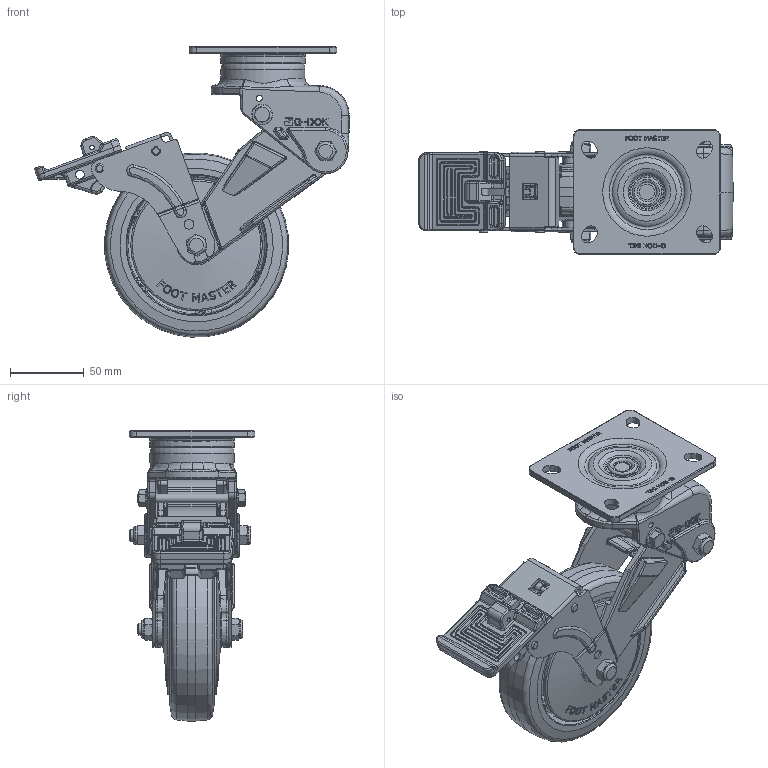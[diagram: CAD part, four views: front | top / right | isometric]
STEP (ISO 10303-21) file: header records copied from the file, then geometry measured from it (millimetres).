
FILE_DESCRIPTION(/* description */ (''),/* implementation_level */ '2;1');
FILE_NAME(/* name */ 'Z:\1.기술연구소\1.도면\제품도면\1.양산품\34.GDSB-SERIES\2.GDSB-125\1.진행도면\3.3D_홈페이지용 내부 간략화\내부 간략화\홈페이지 3D 도면\GDSB-125-BRF-LUD-PEU.stp',/* time_stamp */ '2022-08-20T10:02:51+09:00',/* author */ ('admin'),/* organization */ (''),/* preprocessor_version */ 'ST-DEVELOPER v18.1',/* originating_system */ 'Autodesk Inventor 2021',/* authorisation */ '');
FILE_SCHEMA (('AUTOMOTIVE_DESIGN { 1 0 10303 214 3 1 1 }'));
Products named in the file (1): GDSB-125-BRF-LUD-PEU_Shrinkwrap_1_결합
Bounding box: 213.2 x 85 x 196.81 mm (x, y, z)
Volume: 546541.5 mm3; surface area: 189578.4 mm2
Topology: 1 solids, 6 shells, 3876 faces, 9650 edges, 5823 vertices
Faces by surface type: plane 1262, bspline 1223, cylinder 875, torus 248, cone 192, sphere 76
Full cylindrical faces by diameter (mm): 3 x3, 3.1 x2, 4 x3, 4.2 x6, 6 x9, 6.2 x2, 6.5 x2, 7.4 x1, 7.95 x5, 8 x1, 8.2 x2, 9.95 x1, 10.2 x4, 10.7 x1, 11.6 x2, 12.5 x4, 14 x2, 20 x2, 55.625 x2, 57 x1, 125 x1
Entity records: 153676 total; most frequent: CARTESIAN_POINT 63213, ORIENTED_EDGE 19134, DIRECTION 16582, EDGE_CURVE 9567, AXIS2_PLACEMENT_3D 6314, VERTEX_POINT 5823, EDGE_LOOP 4073, LINE 3954
